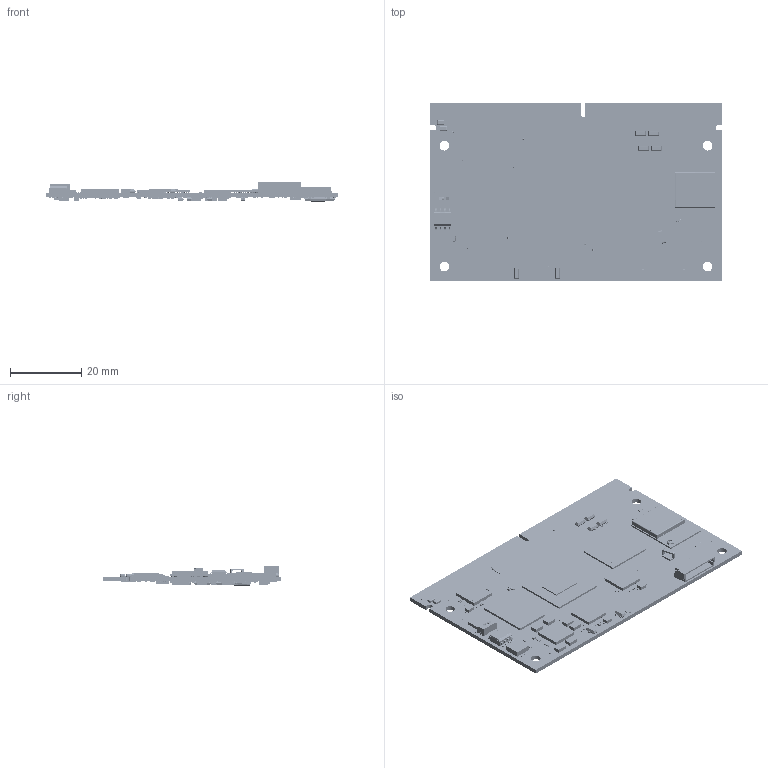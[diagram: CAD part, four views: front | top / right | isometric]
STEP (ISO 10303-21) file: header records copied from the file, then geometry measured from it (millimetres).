
FILE_DESCRIPTION(('Open CASCADE Model'),'2;1');
FILE_NAME('Open CASCADE Shape Model','2026-04-02T15:22:39',('Author'),( 'Open CASCADE'),'Open CASCADE STEP processor 7.5','Open CASCADE 7.5' ,'Unknown');
FILE_SCHEMA(('AUTOMOTIVE_DESIGN { 1 0 10303 214 1 1 1 1 }'));
Length unit declared in the file: millimetre
Products named in the file (683): PCB; Board; Open CASCADE STEP translator 7.5 4.1.1; R131; User Library-User Library-RES0201; U22; 8429868464; 8715001280; Extruded; U21; R130; R127; R126; R124; R123; U20; DCK0005A; BODY-SOT; LEAD-SOT; PIN1-ID; U19; 8429868848; 8715002384; U18; U15; R122; R121; R120; R119; R118; Q10; 8429869040; Q9; 8429873456; Q8; Q7; 8429870000; Q2; Q1; 8429869808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
Assembly tree (1915 placements, depth 5):
  PCB
    Board
      Open CASCADE STEP translator 7.5 4.1.1
    R131
      User Library-User Library-RES0201
    U22
      8429868464
      8715001280
        Extruded
    U21
      8429868464
      8715001280
        Extruded
    R130
      User Library-User Library-RES0201
    R127
      User Library-User Library-RES0201
    R126
      User Library-User Library-RES0201
    R124
      User Library-User Library-RES0201
    R123
      User Library-User Library-RES0201
    U20
      DCK0005A
        BODY-SOT
        LEAD-SOT  x5
        PIN1-ID
    U19
      8429868848
      8715002384
        Extruded
    U18
      DCK0005A
        BODY-SOT
        LEAD-SOT  x5
        PIN1-ID
    U15
      8429868848
      8715002384
        Extruded
    R122
      User Library-User Library-RES0201
    R121
      User Library-User Library-RES0201
    R120
      User Library-User Library-RES0201
    R119
      User Library-User Library-RES0201
    R118
      User Library-User Library-RES0201
    Q10
      8429869040
    Q9
      8429873456
    Q8
      8429873456
    Q7
      8429870000
    Q2
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Bounding box: 82 x 50 x 5.42 mm (x, y, z)
Volume: 6138 mm3; surface area: 14737.1 mm2
Topology: 2086 solids, 3097 shells, 57427 faces, 143058 edges, 89592 vertices
Faces by surface type: plane 39498, cylinder 8323, bspline 7321, sphere 1993, revolution 284, cone 6, torus 2
Full cylindrical faces by diameter (mm): 0.201 x1, 0.353 x2, 0.392 x2, 0.438 x200, 0.7 x1, 0.875 x1, 1.438 x1, 2.7 x4
Entity records: 302134 total; most frequent: CARTESIAN_POINT 67677, DIRECTION 41601, ORIENTED_EDGE 38714, EDGE_CURVE 20069, LINE 14931, VECTOR 14931, AXIS2_PLACEMENT_3D 13234, VERTEX_POINT 12219
